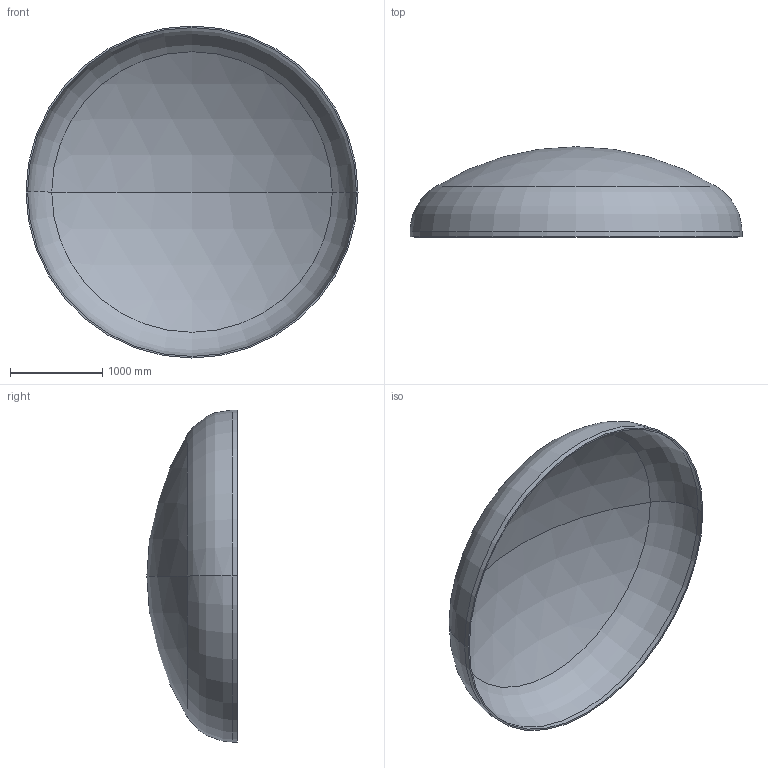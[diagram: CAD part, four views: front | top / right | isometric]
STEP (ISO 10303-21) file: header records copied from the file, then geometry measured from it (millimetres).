
FILE_DESCRIPTION (( 'STEP AP203' ), '1' );
FILE_NAME ('DIN 28013 Korbbogenform_-_Boden DIN 28013 - 3600 x 55 - I - s=17.step', '2016-07-01T20:09:10', ( '' ), ( '' ), 'SwSTEP 2.0', 'SolidWorks 2013', '' );
FILE_SCHEMA (( 'CONFIG_CONTROL_DESIGN' ));
Length unit declared in the file: millimetre
Products named in the file (1): DIN 28013 Korbbogenform_-_Boden DIN 28013 - 3600 x 55 - I - s=17
Bounding box: 3600 x 977.76 x 3600 mm (x, y, z)
Volume: 248749192.6 mm3; surface area: 29456562.1 mm2
Topology: 1 solids, 1 shells, 13 faces, 24 edges, 14 vertices
Faces by surface type: torus 4, cylinder 4, sphere 4, plane 1
Entity records: 407 total; most frequent: DIRECTION 72, CARTESIAN_POINT 52, ORIENTED_EDGE 48, AXIS2_PLACEMENT_3D 34, EDGE_CURVE 24, CIRCLE 20, VERTEX_POINT 14, EDGE_LOOP 14
